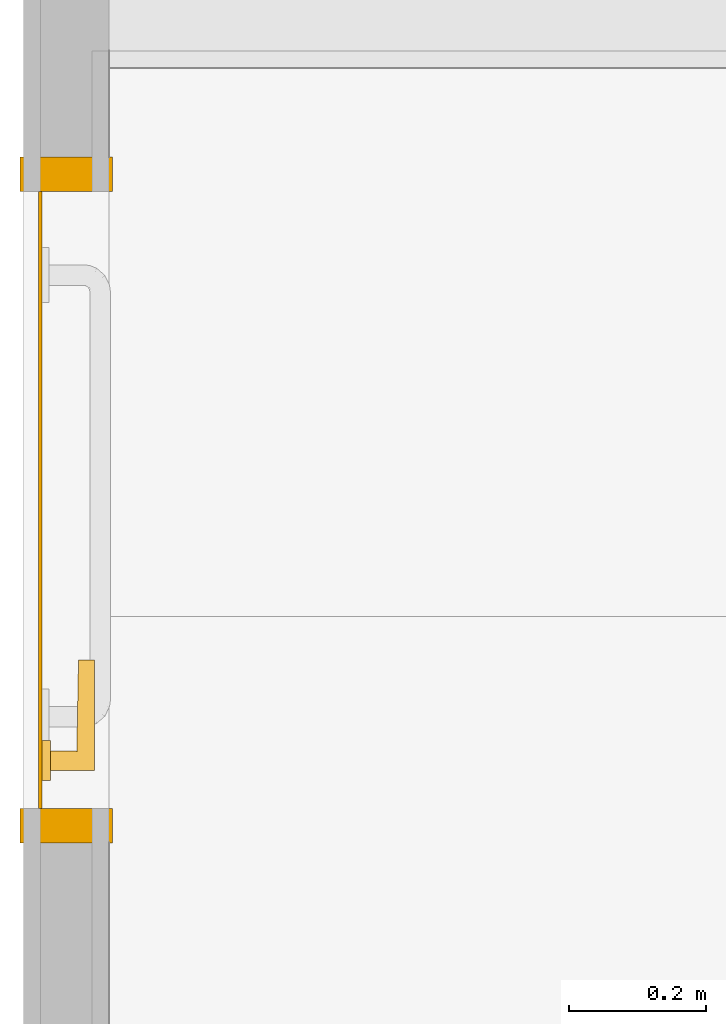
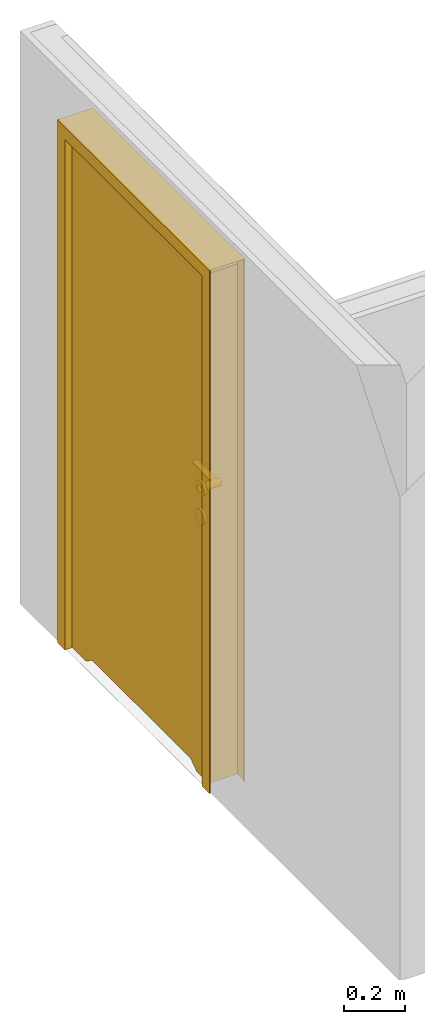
# One storey, part 3 of 4: 3 doors.
"""IFC2X3 building model written with IfcOpenShell, lengths in millimetres."""

from ifc_helpers import new_model, si_unit, frame, origin_with_axes, place, context, subcontext, project, spatial, faceted_brep, material, element, save


model = new_model("IFC2X3")

# Units and contexts
model_context = context("Model", 3, world=origin_with_axes())
body_context = subcontext(model_context, "Body", "Model", "MODEL_VIEW")
ifc_project = project(units=[si_unit("LENGTHUNIT", "METRE", prefix="MILLI"), si_unit("AREAUNIT", "SQUARE_METRE"), si_unit("VOLUMEUNIT", "CUBIC_METRE")], contexts=[model_context])

# Site, building, storey
site_placement = place(None, origin_with_axes())
site = spatial("IfcSite", under=ifc_project, at=site_placement, Name="Default Site", CompositionType="ELEMENT")
building_placement = place(site_placement, frame((2276.0499999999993, -7.219114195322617e-13, 0.0), z_axis=(0.0, 0.0, 1.0), x_axis=(2.9143354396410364e-16, 1.0, 0.0)))
building = spatial("IfcBuilding", under=site, at=building_placement, Name="Default Building", CompositionType="ELEMENT")
storey_placement = place(building_placement, origin_with_axes())
storey = spatial("IfcBuildingStorey", under=building, at=storey_placement, Name="Default Building Storey", CompositionType="ELEMENT", Elevation=0.0)

# Doors
ifc_material_1 = material(Name="Metal_06_1K")
door_1_placement = place(storey_placement, frame((1245.07, 2146.0499999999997, 0.0), z_axis=(0.0, 0.0, 1.0), x_axis=(1.0, 0.0, 0.0)))
element("IfcDoor", 1, at=door_1_placement, inside=storey, material=ifc_material_1, Name="Ościeżnica", context=body_context, shape_type="Brep", body=[
    faceted_brep([(950.0000000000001, 135.00000000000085, 1.0000000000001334), (950.0000000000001, 135.00000000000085, 2049.9999999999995), (49.999999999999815, 135.0000000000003, 2050.0), (49.999999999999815, 135.0000000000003, 1.0000000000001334), (49.999999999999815, 135.0000000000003, 0.0), (-1.8047785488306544e-13, 135.00000000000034, 0.0), (-1.8047785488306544e-13, 135.00000000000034, 2100.0), (49.999999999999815, 135.0000000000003, 2100.0), (950.0000000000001, 135.00000000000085, 2099.999999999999), (1000.0, 135.00000000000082, 2099.999999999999), (1000.0, 135.00000000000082, 500.0), (1000.0, 135.00000000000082, 0.0), (950.0000000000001, 135.00000000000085, 0.0), (49.999999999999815, 130.0, 2100.0), (50.000000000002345, 4.999999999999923, 2100.0), (950.0000000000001, 5.0000000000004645, 2099.999999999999), (950.0000000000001, 130.00000000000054, 2099.999999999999), (1000.0, 130.00000000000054, 2099.999999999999), (1000.0, 130.00000000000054, 500.0), (950.0000000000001, 5.188738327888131e-13, 2049.9999999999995), (950.0000000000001, 130.00000000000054, 1.0000000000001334), (950.0000000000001, 5.0000000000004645, 1.0000000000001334), (950.0000000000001, 5.188738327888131e-13, 1.0000000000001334), (1000.0, 5.000000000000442, 500.0), (1000.0, 5.000000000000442, 2099.999999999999), (1000.0, 4.963141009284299e-13, 2099.999999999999), (1000.0, 4.963141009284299e-13, 500.0), (2.3462121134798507e-12, 4.999999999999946, 2100.0), (2.3462121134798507e-12, 0.0, 2100.0), (1000.0, 105.00000000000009, 500.0), (1000.0, 29.999999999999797, 500.0), (1000.0, 29.999999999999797, 2099.999999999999), (1000.0, 105.00000000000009, 2099.999999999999), (50.000000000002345, -2.255973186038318e-14, 2050.0), (50.000000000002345, -2.255973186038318e-14, 1.0000000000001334), (50.000000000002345, 4.999999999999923, 1.0000000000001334), (49.999999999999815, 130.0, 1.0000000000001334), (-1.8047785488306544e-13, 130.00000000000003, 2.1476706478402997e-18), (-1.8047785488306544e-13, 130.00000000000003, 2100.0), (2.3462121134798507e-12, 104.99999999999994, 2100.0), (2.3462121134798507e-12, 30.000000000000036, 2100.0), (2.165734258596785e-12, 4.999999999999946, 0.4863954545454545), (2.3462121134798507e-12, 4.999999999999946, 2.1476706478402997e-18), (2.3462121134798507e-12, 0.0, 4.295341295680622e-18), (50.000000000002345, -2.255973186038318e-14, 4.295341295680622e-18), (950.0000000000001, 5.188738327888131e-13, 4.295341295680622e-18), (1000.0, 4.963141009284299e-13, 4.295341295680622e-18)], [[[0, 1, 2, 3, 4, 5, 6, 7, 8, 9, 10, 11, 12]], [[13, 14, 15, 16]], [[13, 16, 8, 7]], [[16, 17, 9, 8]], [[17, 18, 10, 9]], [[19, 1, 0, 20, 21, 22]], [[23, 24, 25, 26]], [[24, 15, 14, 27, 28, 25]], [[29, 30, 31, 32]], [[2, 33, 34, 35, 36, 3]], [[33, 2, 1, 19]], [[37, 38, 6, 5]], [[18, 29, 32, 17]], [[17, 16, 15, 24, 31, 32]], [[30, 23, 24, 31]], [[39, 38, 13, 14, 27, 40]], [[41, 42, 43, 28, 27]], [[26, 25, 28, 43, 44, 34, 33, 19, 22, 45, 46]], [[38, 13, 7, 6]]]),
])
ifc_material_2 = material(Name="M05_Graphite_Haze")
door_2_placement = place(storey_placement, frame((1335.920419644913, 2172.1527788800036, 998.5633166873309), z_axis=(0.0, 0.0, 1.0), x_axis=(1.0, 0.0, 0.0)))
element("IfcDoor", 2, at=door_2_placement, inside=storey, material=ifc_material_2, Name="Klamka", context=body_context, shape_type="Brep", body=[
    faceted_brep([(34.191522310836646, 76.89722111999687, 40.25621503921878), (33.31808503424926, 76.89722111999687, 41.55186664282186), (33.31808503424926, 64.49444352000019, 41.55186664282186), (34.191522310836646, 64.49444352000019, 40.25621503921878), (25.905925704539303, 76.89722111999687, 40.7140062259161), (26.835643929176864, 76.89722111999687, 41.494427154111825), (26.835643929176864, 64.49444352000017, 41.494427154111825), (25.905925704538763, 64.49444352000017, 40.7140062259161), (33.487499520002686, 76.89722111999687, 21.10611722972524), (33.4403573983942, 76.89722111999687, 19.740118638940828), (33.440357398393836, 64.49444352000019, 19.740118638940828), (33.487499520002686, 64.49444352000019, 21.10611722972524), (30.348558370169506, 76.89722111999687, 16.304786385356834), (29.146527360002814, 76.89722111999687, 16.135806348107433), (29.146527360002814, 64.49444352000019, 16.135806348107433), (30.348558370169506, 64.49444352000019, 16.304786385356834), (30.693876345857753, 76.89722111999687, 15.100857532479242), (32.12127851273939, 76.89722111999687, 15.736568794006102), (32.12127851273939, 64.49444352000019, 15.736568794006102), (30.693876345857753, 64.49444352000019, 15.100857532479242), (43.71979104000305, 76.89722111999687, 3.904894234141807), (49.75623450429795, 76.89722111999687, 8.536820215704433), (49.75623450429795, 64.49444352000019, 8.536820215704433), (43.71979104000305, 64.49444352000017, 3.904894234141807), (36.69020373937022, 64.49444352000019, 171.40546480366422), (43.71979104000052, 64.49444352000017, 168.49371440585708), (43.71979104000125, 76.89722111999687, 168.49371440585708), (36.69020373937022, 76.89722111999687, 171.40546480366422), (14.573263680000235, 64.49444352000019, 168.49371440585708), (21.60285098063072, 64.49444352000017, 171.40546480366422), (21.60285098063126, 76.89722111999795, 171.40546480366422), (14.573263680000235, 76.89722111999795, 168.49371440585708), (25.227411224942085, 76.89722111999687, 39.70750192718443), (25.227411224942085, 64.49444352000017, 39.70750192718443), (29.146527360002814, 76.89722111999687, 0.0), (36.69020373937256, 76.89722111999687, 0.9931438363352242), (36.69020373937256, 64.49444352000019, 0.9931438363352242), (29.146527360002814, 64.49444352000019, 0.0), (24.852697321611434, 76.89722111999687, 19.740118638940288), (24.805555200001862, 76.89722111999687, 21.10611722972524), (24.80555520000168, 64.49444352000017, 21.10611722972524), (24.852697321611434, 64.49444352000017, 19.740118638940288), (54.388160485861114, 76.89722111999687, 14.573263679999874), (54.38816048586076, 64.49444352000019, 14.573263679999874), (57.2999108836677, 76.89722111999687, 36.690203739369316), (54.388160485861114, 76.89722111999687, 43.71979103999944), (54.38816048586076, 64.49444352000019, 43.71979103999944), (57.2999108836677, 64.49444352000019, 36.690203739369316), (29.146527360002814, 76.89722111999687, 43.40972159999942), (27.59917837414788, 76.89722111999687, 43.19219718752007), (27.59917837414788, 64.49444352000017, 43.19219718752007), (29.146527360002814, 64.49444352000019, 43.40972159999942), (58.29305472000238, 76.89722111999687, 29.14652735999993), (58.29305472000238, 64.49444352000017, 29.14652735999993), (0.9931438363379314, 76.89722111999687, 21.602850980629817), (3.904894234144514, 76.89722111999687, 14.573263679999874), (3.904894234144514, 64.49444352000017, 14.573263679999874), (0.9931438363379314, 64.49444352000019, 21.602850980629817), (3.9048942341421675, 64.49444352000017, 157.82534495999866), (8.536820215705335, 64.49444352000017, 163.86178842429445), (8.536820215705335, 76.89722111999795, 163.86178842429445), (3.9048942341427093, 76.89722111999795, 157.82534495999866), (26.835643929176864, 76.89722111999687, 16.798627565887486), (25.905925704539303, 76.89722111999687, 17.57904849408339), (25.905925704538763, 64.49444352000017, 17.57904849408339), (26.835643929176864, 64.49444352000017, 16.798627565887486), (33.4403573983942, 76.89722111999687, 38.55293608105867), (33.487499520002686, 76.89722111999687, 37.186937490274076), (33.487499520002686, 64.49444352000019, 37.186937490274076), (33.440357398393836, 64.49444352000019, 38.55293608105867), (49.756234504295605, 64.49444352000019, 163.86178842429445), (49.756234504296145, 76.89722111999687, 163.86178842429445), (31.457410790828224, 76.89722111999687, 41.494427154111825), (32.38712901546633, 76.89722111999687, 40.7140062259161), (32.38712901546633, 64.49444352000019, 40.7140062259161), (31.457410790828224, 64.49444352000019, 41.494427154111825), (30.348558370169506, 76.89722111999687, 41.98826833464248), (30.348558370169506, 64.49444352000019, 41.98826833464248), (3.9048942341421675, 64.49444352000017, 128.6788175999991), (0.9931438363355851, 64.49444352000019, 135.70840490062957), (0.9931438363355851, 76.89722111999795, 135.70840490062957), (3.9048942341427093, 76.89722111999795, 128.6788175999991), (0.0, 64.49444352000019, 143.25208127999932), (0.0, 76.89722111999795, 143.25208127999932), (29.14652736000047, 64.49444352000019, 172.39860863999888), (29.14652736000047, 76.89722111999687, 172.39860863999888), (14.573263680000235, 64.49444352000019, 118.01044815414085), (8.536820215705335, 64.49444352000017, 122.64237413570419), (8.536820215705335, 76.89722111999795, 122.64237413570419), (14.573263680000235, 76.89722111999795, 118.01044815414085), (24.852697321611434, 76.89722111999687, 38.552936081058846), (24.852697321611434, 64.49444352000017, 38.552936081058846), (0.9931438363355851, 64.49444352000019, 150.7957576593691), (0.9931438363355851, 76.89722111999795, 150.7957576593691), (33.06564349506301, 76.89722111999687, 18.5855527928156), (33.06564349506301, 64.49444352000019, 18.5855527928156), (57.299910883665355, 64.49444352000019, 150.7957576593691), (58.2930547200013, 64.49444352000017, 143.25208127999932), (58.2930547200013, 76.89722111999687, 143.25208127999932), (57.299910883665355, 76.89722111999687, 150.7957576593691), (25.227411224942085, 76.89722111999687, 18.58555279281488), (25.227411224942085, 64.49444352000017, 18.58555279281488), (24.805555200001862, 76.89722111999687, 37.186937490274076), (24.80555520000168, 64.49444352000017, 37.186937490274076), (33.06564349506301, 76.89722111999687, 39.70750192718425), (33.06564349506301, 64.49444352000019, 39.70750192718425), (27.944496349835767, 76.89722111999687, 41.98826833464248), (29.146527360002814, 76.89722111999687, 42.15724837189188), (29.146527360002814, 64.49444352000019, 42.15724837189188), (27.944496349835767, 64.49444352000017, 41.98826833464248), (57.2999108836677, 76.89722111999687, 21.602850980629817), (57.2999108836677, 64.49444352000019, 21.602850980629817), (8.536820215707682, 76.89722111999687, 8.536820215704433), (14.573263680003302, 76.89722111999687, 3.904894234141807), (14.573263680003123, 64.49444352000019, 3.904894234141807), (8.536820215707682, 64.49444352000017, 8.536820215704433), (32.38712901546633, 76.89722111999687, 17.57904849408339), (32.38712901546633, 64.49444352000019, 17.57904849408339), (27.944496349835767, 76.89722111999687, 16.304786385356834), (27.944496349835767, 64.49444352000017, 16.304786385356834), (24.101532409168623, 76.89722111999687, 40.25621503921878), (23.61917116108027, 76.89722111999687, 38.76996695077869), (23.61917116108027, 64.49444352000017, 38.76996695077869), (24.101532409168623, 64.49444352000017, 40.25621503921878), (23.61917116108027, 76.89722111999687, 19.52308776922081), (24.101532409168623, 76.89722111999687, 18.036839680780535), (24.101532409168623, 64.49444352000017, 18.036839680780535), (23.61917116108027, 64.49444352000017, 19.52308776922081), (30.693876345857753, 64.49444352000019, 43.19219718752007), (26.171776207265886, 64.49444352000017, 42.55648592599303), (24.974969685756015, 64.49444352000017, 41.55186664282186), (23.565277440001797, 64.49444352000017, 37.20833279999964), (23.565277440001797, 64.49444352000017, 21.08472191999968), (24.974969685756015, 64.49444352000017, 16.741188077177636), (26.171776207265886, 64.49444352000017, 15.736568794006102), (27.59917837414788, 64.49444352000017, 15.100857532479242), (29.146527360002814, 64.49444352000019, 14.88333311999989), (33.31808503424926, 64.49444352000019, 16.741188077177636), (34.191522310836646, 64.49444352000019, 18.036839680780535), (34.67388355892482, 64.49444352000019, 19.523087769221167), (34.72777728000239, 64.49444352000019, 21.08472191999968), (34.72777728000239, 64.49444352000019, 37.20833279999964), (34.67388355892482, 64.49444352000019, 38.769966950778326), (32.12127851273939, 64.49444352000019, 42.55648592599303), (31.457410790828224, 64.49444352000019, 16.798627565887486), (32.12127851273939, 76.89722111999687, 42.55648592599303), (30.693876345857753, 76.89722111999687, 43.19219718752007), (1.9852564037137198e-12, 76.89722111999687, 29.14652735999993), (1.9852564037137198e-12, 64.49444352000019, 29.14652735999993), (54.38816048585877, 64.49444352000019, 157.82534495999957), (54.38816048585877, 76.89722111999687, 157.82534495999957), (8.536820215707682, 76.89722111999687, 49.7562345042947), (3.904894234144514, 76.89722111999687, 43.71979103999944), (3.904894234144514, 64.49444352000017, 43.71979103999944), (8.536820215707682, 64.49444352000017, 49.7562345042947), (31.457410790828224, 76.89722111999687, 16.798627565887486), (36.69020373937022, 64.49444352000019, 115.09869775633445), (29.14652736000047, 64.49444352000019, 114.10555391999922), (29.14652736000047, 76.89722111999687, 114.10555391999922), (36.69020373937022, 76.89722111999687, 115.09869775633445), (26.171776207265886, 76.89722111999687, 15.736568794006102), (27.59917837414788, 76.89722111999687, 15.100857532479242), (26.171776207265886, 76.89722111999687, 42.55648592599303), (32.838113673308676, 64.49444352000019, 129.47489359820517), (36.27812448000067, 64.49444352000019, 130.89979272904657), (36.27812448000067, 76.89722111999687, 130.89979272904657), (32.8381136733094, 76.89722111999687, 129.47489359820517), (0.9931438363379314, 76.89722111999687, 36.690203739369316), (0.9931438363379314, 64.49444352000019, 36.690203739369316), (39.23212872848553, 64.49444352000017, 133.16647991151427), (39.23212872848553, 76.89722111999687, 133.16647991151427), (43.409721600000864, 64.49444352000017, 143.25208127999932), (42.92371504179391, 64.49444352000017, 146.94366759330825), (42.92371504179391, 76.89722111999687, 146.94366759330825), (43.409721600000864, 76.89722111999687, 143.25208127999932), (14.88333311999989, 64.49444352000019, 143.25208127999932), (15.369339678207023, 64.49444352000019, 139.56049496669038), (15.369339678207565, 76.89722111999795, 139.56049496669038), (14.883333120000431, 76.89722111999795, 143.25208127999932), (29.146527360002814, 76.89722111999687, 58.29305471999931), (21.602850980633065, 76.89722111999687, 57.29991088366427), (21.602850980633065, 64.49444352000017, 57.29991088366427), (29.146527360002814, 64.49444352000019, 58.29305471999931), (29.14652736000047, 64.49444352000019, 157.5152755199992), (29.14652736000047, 64.49444352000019, 128.98888703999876), (41.49881591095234, 64.49444352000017, 136.12048415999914), (42.92371504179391, 64.49444352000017, 139.56049496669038), (41.49881591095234, 64.49444352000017, 150.38367839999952), (39.23212872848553, 64.49444352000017, 153.3376826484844), (36.27812448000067, 64.49444352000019, 155.60436983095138), (32.838113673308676, 64.49444352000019, 157.02926896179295), (19.06092599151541, 64.49444352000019, 133.16647991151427), (22.014930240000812, 64.49444352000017, 130.89979272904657), (22.014930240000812, 76.89722111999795, 130.89979272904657), (19.060925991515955, 76.89722111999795, 133.16647991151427), (23.565277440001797, 76.89722111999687, 37.20833279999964), (24.974969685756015, 76.89722111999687, 41.55186664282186), (23.565277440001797, 76.89722111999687, 21.08472191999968), (24.974969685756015, 76.89722111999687, 16.741188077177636), (29.146527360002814, 76.89722111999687, 14.88333311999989), (33.31808503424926, 76.89722111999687, 16.741188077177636), (34.191522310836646, 76.89722111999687, 18.036839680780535), (34.673883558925, 76.89722111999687, 19.523087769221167), (34.72777728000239, 76.89722111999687, 21.08472191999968), (34.72777728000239, 76.89722111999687, 37.20833279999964), (34.673883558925, 76.89722111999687, 38.769966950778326), (42.92371504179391, 76.89722111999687, 139.56049496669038), (41.49881591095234, 76.89722111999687, 136.12048415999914), (36.69020373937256, 64.49444352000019, 57.29991088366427), (14.57326368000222, 64.49444352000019, 54.388160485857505), (21.602850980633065, 64.49444352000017, 0.9931438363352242), (49.75623450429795, 64.49444352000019, 49.7562345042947), (43.71979104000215, 64.49444352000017, 54.388160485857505), (21.60285098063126, 76.89722111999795, 115.09869775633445), (57.299910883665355, 76.89722111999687, 135.70840490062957), (54.38816048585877, 76.89722111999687, 128.67881759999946), (49.756234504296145, 76.89722111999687, 122.64237413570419), (43.71979104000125, 76.89722111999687, 118.01044815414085), (25.454941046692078, 76.89722111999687, 129.47489359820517), (29.14652736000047, 76.89722111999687, 128.98888703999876), (41.49881591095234, 76.89722111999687, 150.38367839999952), (39.23212872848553, 76.89722111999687, 153.3376826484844), (36.27812448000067, 76.89722111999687, 155.60436983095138), (32.8381136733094, 76.89722111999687, 157.02926896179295), (29.14652736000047, 76.89722111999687, 157.5152755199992), (25.454941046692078, 76.89722111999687, 157.02926896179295), (22.014930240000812, 76.89722111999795, 155.60436983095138), (19.060925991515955, 76.89722111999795, 153.3376826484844), (16.79423880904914, 76.89722111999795, 150.38367839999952), (15.369339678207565, 76.89722111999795, 146.94366759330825), (16.79423880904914, 76.89722111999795, 136.12048415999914), (21.602850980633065, 76.89722111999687, 0.9931438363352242), (49.75623450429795, 76.89722111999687, 49.7562345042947), (43.71979104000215, 76.89722111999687, 54.388160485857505), (43.40972160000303, 1.4438228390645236e-11, 145.1124979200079), (43.40972160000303, 1.4438228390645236e-11, 143.25208128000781), (43.40972160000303, 1.4438228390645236e-11, 141.39166464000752), (52.09166592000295, 1.4415668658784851e-11, 141.39166464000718), (175.4993030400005, 0.0, 141.39166463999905), (175.4993030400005, 0.0, 145.11249791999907), (52.09166592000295, 1.4415668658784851e-11, 145.1124979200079), (39.23212872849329, 1.4438228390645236e-11, 133.16647991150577), (41.4988159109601, 1.4438228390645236e-11, 136.12048415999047), (42.923715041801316, 1.4438228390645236e-11, 139.56049496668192), (50.845634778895, 1.4415668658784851e-11, 141.0418358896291), (49.6201753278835, 1.4415668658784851e-11, 140.62563534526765), (48.41882017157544, 1.4415668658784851e-11, 140.1442627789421), (47.24503242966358, 1.4415668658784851e-11, 139.59910583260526), (46.10219575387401, 1.4415668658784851e-11, 138.9917360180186), (44.9936045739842, 1.4415668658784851e-11, 138.32390418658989), (43.922454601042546, 1.4438228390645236e-11, 137.5975354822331), (42.89183361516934, 1.4438228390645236e-11, 136.81472379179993), (41.904712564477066, 1.4438228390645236e-11, 135.9777257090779), (40.96393700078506, 1.4438228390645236e-11, 135.0889540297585), (40.072218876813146, 1.4438228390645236e-11, 134.15097079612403), (43.40972159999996, 26.045832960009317, 145.112497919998), (43.40972160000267, 25.751290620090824, 145.1124979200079), (52.09166592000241, 25.751290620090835, 145.1124979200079), (175.4993030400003, 23.565277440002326, 145.11249791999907), (25.454941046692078, 64.49444352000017, 129.47489359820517), (25.454941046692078, 64.49444352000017, 157.02926896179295), (22.014930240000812, 64.49444352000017, 155.60436983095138), (19.06092599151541, 64.49444352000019, 153.3376826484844), (16.7942388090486, 64.49444352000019, 150.38367839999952), (15.369339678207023, 64.49444352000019, 146.94366759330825), (16.7942388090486, 64.49444352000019, 136.12048415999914), (29.14652736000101, 7.219114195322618e-12, 157.5152755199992), (29.14652736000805, 1.4438228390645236e-11, 128.98888703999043), (36.69020373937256, 76.89722111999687, 57.29991088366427), (14.573263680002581, 76.89722111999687, 54.388160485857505), (21.60285098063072, 64.49444352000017, 115.09869775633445), (175.4993030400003, 23.565277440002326, 141.39166463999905), (57.299910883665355, 64.49444352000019, 135.70840490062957), (54.38816048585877, 64.49444352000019, 128.67881759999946), (49.756234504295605, 64.49444352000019, 122.64237413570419), (43.71979104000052, 64.49444352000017, 118.01044815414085), (39.232128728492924, 25.787088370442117, 133.16647991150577), (40.07221887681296, 25.787088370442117, 134.15097079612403), (41.498815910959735, 25.787088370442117, 136.12048415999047), (47.2450324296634, 25.787088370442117, 139.59910583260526), (48.418820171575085, 25.787088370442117, 140.1442627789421), (25.45494104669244, 7.219114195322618e-12, 129.47489359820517), (42.92371504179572, 25.751290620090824, 146.9436675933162), (43.40972160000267, 25.751290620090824, 143.25208128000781), (43.40972160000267, 25.787088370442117, 143.25208128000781), (43.40972159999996, 26.045832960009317, 143.25208127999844), (22.014930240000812, 7.219114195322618e-12, 155.60436983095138), (25.45494104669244, 7.219114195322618e-12, 157.02926896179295), (43.40972159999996, 26.045832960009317, 141.39166463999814), (43.40972160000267, 25.787088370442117, 141.39166464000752), (52.09166592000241, 25.787088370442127, 141.39166464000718), (16.79423880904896, 7.196554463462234e-12, 136.12048415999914), (15.369339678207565, 7.196554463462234e-12, 139.56049496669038), (36.278124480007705, 1.4438228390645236e-11, 130.89979272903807), (32.83811367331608, 1.4438228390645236e-11, 129.47489359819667), (46.10219575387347, 25.787088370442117, 138.9917360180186), (42.92371504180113, 25.787088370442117, 139.56049496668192), (39.23212872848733, 25.751290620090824, 153.33768264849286), (41.49881591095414, 25.751290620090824, 150.383678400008), (50.84563477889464, 25.787088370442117, 141.0418358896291), (42.92371504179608, 1.4438228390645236e-11, 146.9436675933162), (41.49881591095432, 1.4438228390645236e-11, 150.383678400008), (32.83811367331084, 1.4438228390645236e-11, 157.02926896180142), (36.27812448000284, 1.4438228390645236e-11, 155.60436983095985), (39.23212872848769, 1.4438228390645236e-11, 153.33768264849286), (40.9639370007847, 25.787088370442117, 135.0889540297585), (41.90471256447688, 25.787088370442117, 135.9777257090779), (14.883333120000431, 7.196554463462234e-12, 143.25208127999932), (15.369339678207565, 7.196554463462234e-12, 146.94366759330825), (42.891833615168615, 25.787088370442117, 136.81472379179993), (16.79423880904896, 7.196554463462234e-12, 150.38367839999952), (19.060925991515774, 7.219114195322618e-12, 153.3376826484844), (19.060925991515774, 7.219114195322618e-12, 133.16647991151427), (22.014930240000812, 7.219114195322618e-12, 130.89979272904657), (49.62017532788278, 25.787088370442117, 140.62563534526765), (44.99360457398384, 25.787088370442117, 138.32390418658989), (43.92245460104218, 25.787088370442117, 137.5975354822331), (40.07221887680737, 25.751290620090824, 152.35319176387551), (40.96393700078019, 25.751290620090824, 151.41520853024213), (41.904712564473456, 25.751290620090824, 150.52643685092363), (42.89183361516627, 25.751290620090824, 149.68943876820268), (43.92245460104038, 25.751290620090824, 148.90662707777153), (44.99360457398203, 25.751290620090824, 148.18025837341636), (46.102195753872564, 25.751290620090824, 147.5124265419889), (47.245032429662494, 25.751290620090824, 146.90505672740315), (48.41882017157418, 25.751290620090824, 146.3598997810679), (49.62017532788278, 25.751290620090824, 145.87852721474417), (50.84563477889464, 25.751290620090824, 145.4623266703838), (47.24503242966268, 1.4415668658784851e-11, 146.90505672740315), (48.41882017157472, 1.4415668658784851e-11, 146.3598997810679), (40.07221887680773, 1.4438228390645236e-11, 152.35319176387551), (40.96393700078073, 1.4438228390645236e-11, 151.41520853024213), (41.904712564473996, 1.4438228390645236e-11, 150.52643685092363), (43.92245460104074, 1.4438228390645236e-11, 148.90662707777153), (44.993604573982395, 1.4415668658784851e-11, 148.18025837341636), (42.89183361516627, 1.4438228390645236e-11, 149.68943876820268), (49.6201753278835, 1.4415668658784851e-11, 145.87852721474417), (50.845634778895, 1.4415668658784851e-11, 145.4623266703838), (46.102195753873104, 1.4415668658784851e-11, 147.5124265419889)], [[[0, 1, 2, 3]], [[4, 5, 6, 7]], [[8, 9, 10, 11]], [[12, 13, 14, 15]], [[16, 17, 18, 19]], [[20, 21, 22, 23]], [[24, 25, 26, 27]], [[28, 29, 30, 31]], [[32, 4, 7, 33]], [[34, 35, 36, 37]], [[38, 39, 40, 41]], [[21, 42, 43, 22]], [[44, 45, 46, 47]], [[48, 49, 50, 51]], [[52, 44, 47, 53]], [[54, 55, 56, 57]], [[58, 59, 60, 61]], [[62, 63, 64, 65]], [[66, 67, 68, 69]], [[25, 70, 71, 26]], [[72, 73, 74, 75]], [[76, 72, 75, 77]], [[78, 79, 80, 81]], [[79, 82, 83, 80]], [[84, 24, 27, 85]], [[59, 28, 31, 60]], [[86, 87, 88, 89]], [[90, 32, 33, 91]], [[82, 92, 93, 83]], [[9, 94, 95, 10]], [[96, 97, 98, 99]], [[63, 100, 101, 64]], [[102, 90, 91, 103]], [[100, 38, 41, 101]], [[73, 104, 105, 74]], [[106, 107, 108, 109]], [[87, 78, 81, 88]], [[5, 106, 109, 6]], [[42, 110, 111, 43]], [[112, 113, 114, 115]], [[94, 116, 117, 95]], [[39, 102, 103, 40]], [[118, 62, 65, 119]], [[92, 58, 61, 93]], [[29, 84, 85, 30]], [[120, 121, 122, 123]], [[124, 125, 126, 127]], [[110, 52, 53, 111]], [[128, 51, 50, 129, 130, 123, 122, 131, 132, 127, 126, 133, 134, 135, 136, 19, 18, 137, 138, 139, 140, 141, 142, 3, 2, 143], [95, 117, 144, 15, 14, 119, 65, 64, 101, 41, 40, 103, 91, 33, 7, 6, 109, 108, 77, 75, 74, 105, 69, 68, 11, 10]], [[145, 146, 128, 143]], [[147, 54, 57, 148]], [[149, 96, 99, 150]], [[67, 8, 11, 68]], [[104, 66, 69, 105]], [[151, 152, 153, 154]], [[70, 149, 150, 71]], [[107, 76, 77, 108]], [[13, 118, 119, 14]], [[116, 155, 144, 117]], [[156, 157, 158, 159]], [[160, 161, 135, 134]], [[49, 162, 129, 50]], [[163, 164, 165, 166]], [[155, 12, 15, 144]], [[1, 145, 143, 2]], [[167, 147, 148, 168]], [[164, 169, 170, 165]], [[171, 172, 173, 174]], [[175, 176, 177, 178]], [[179, 180, 181, 182]], [[183, 184, 163, 164, 169, 185, 186, 171, 172, 187, 188, 189, 190]], [[191, 192, 193, 194]], [[121, 195, 131, 122]], [[152, 167, 168, 153]], [[162, 196, 130, 129]], [[146, 48, 49, 162, 196, 120, 121, 195, 197, 124, 125, 198, 160, 161, 199, 16, 17, 200, 201, 202, 203, 204, 205, 0, 1, 145], [94, 116, 155, 12, 13, 118, 62, 63, 100, 38, 39, 102, 90, 32, 4, 5, 106, 107, 76, 72, 73, 104, 66, 67, 8, 9]], [[185, 186, 206, 207]], [[198, 160, 134, 133]], [[17, 200, 137, 18]], [[208, 182, 181, 209, 154, 153, 168, 148, 57, 56, 115, 114, 210, 37, 36, 23, 22, 43, 111, 53, 47, 46, 211, 212], [50, 51, 128, 143, 2, 3, 142, 141, 140, 139, 138, 137, 18, 19, 136, 135, 134, 133, 126, 127, 132, 131, 122, 123, 130, 129]], [[159, 158, 213, 89, 88, 81, 80, 83, 93, 61, 60, 31, 30, 85, 27, 26, 71, 150, 99, 98, 214, 215, 216, 217], [218, 219, 166, 165, 170, 207, 206, 174, 173, 220, 221, 222, 223, 224, 225, 226, 227, 228, 229, 178, 177, 230, 194, 193]], [[113, 231, 210, 114]], [[45, 232, 211, 46]], [[232, 233, 212, 211]], [[146, 48, 51, 128]], [[201, 202, 139, 138]], [[200, 201, 138, 137]], [[125, 198, 133, 126]], [[186, 171, 174, 206]], [[234, 235, 236, 237, 238, 239, 240]], [[241, 242, 243, 235, 236, 237, 244, 245, 246, 247, 248, 249, 250, 251, 252, 253, 254]], [[169, 185, 207, 170]], [[188, 189, 222, 221]], [[255, 256, 257, 240, 239, 258]], [[259, 184, 183, 260, 261, 262, 263, 264, 175, 176, 265, 191, 192]], [[266, 267, 184, 183]], [[204, 205, 142, 141]], [[203, 204, 141, 140]], [[196, 120, 123, 130]], [[233, 268, 208, 212]], [[199, 16, 19, 136]], [[268, 179, 180, 269, 151, 152, 167, 147, 54, 55, 112, 113, 231, 34, 35, 20, 21, 42, 110, 52, 44, 45, 232, 233], [49, 48, 146, 145, 1, 0, 205, 204, 203, 202, 201, 200, 17, 16, 199, 161, 160, 198, 125, 124, 197, 195, 121, 120, 196, 162]], [[231, 34, 37, 210]], [[269, 151, 154, 209]], [[268, 179, 182, 208]], [[157, 270, 213, 158]], [[55, 112, 115, 56]], [[197, 124, 127, 132]], [[35, 20, 23, 36]], [[239, 238, 271, 258]], [[156, 157, 270, 86, 87, 78, 79, 82, 92, 58, 59, 28, 29, 84, 24, 25, 70, 149, 96, 97, 272, 273, 274, 275], [259, 184, 163, 164, 169, 185, 186, 171, 172, 187, 188, 189, 190, 183, 260, 261, 262, 263, 264, 175, 176, 265, 191, 192]], [[202, 203, 140, 139]], [[270, 86, 89, 213]], [[161, 199, 136, 135]], [[180, 269, 209, 181]], [[205, 0, 3, 142]], [[195, 197, 132, 131]], [[254, 241, 276, 277]], [[242, 241, 276, 278]], [[246, 247, 279, 280]], [[262, 263, 228, 227]], [[259, 184, 267, 281]], [[171, 172, 282, 283, 284, 285]], [[260, 261, 286, 287]], [[288, 289, 290, 237, 238, 271]], [[284, 283, 256, 255, 285]], [[176, 265, 291, 292]], [[163, 164, 293, 294]], [[247, 248, 295, 279]], [[243, 242, 278, 296]], [[187, 188, 297, 298]], [[237, 244, 299, 290]], [[235, 236, 289, 284, 283]], [[300, 235, 283, 282]], [[301, 300, 282, 298]], [[236, 237, 290, 289]], [[172, 187, 220, 173]], [[258, 271, 288, 285, 255]], [[265, 191, 194, 230]], [[190, 183, 266, 302]], [[261, 262, 227, 226]], [[185, 186, 296, 278]], [[188, 189, 303, 304, 297]], [[252, 253, 305, 306]], [[264, 175, 307, 308]], [[266, 267, 294, 293, 241, 242, 243, 235, 300, 301, 304, 303, 302]], [[251, 252, 306, 309]], [[189, 190, 223, 222]], [[176, 265, 230, 177]], [[190, 183, 224, 223]], [[262, 263, 310, 311]], [[263, 264, 229, 228]], [[264, 175, 178, 229]], [[265, 191, 312, 291]], [[263, 264, 308, 310]], [[191, 192, 313, 312]], [[281, 267, 266, 287, 286, 311, 310, 308, 307, 292, 291, 312, 313]], [[260, 261, 226, 225]], [[187, 188, 221, 220]], [[184, 163, 294, 267]], [[192, 259, 281, 313]], [[253, 254, 277, 305]], [[235, 234, 256, 283]], [[244, 245, 314, 299]], [[172, 187, 298, 282]], [[276, 278, 296, 284, 289, 290, 299, 314, 280, 279, 295, 315, 316, 309, 306, 305, 277]], [[235, 243, 296, 284, 283]], [[183, 260, 287, 266]], [[261, 262, 311, 286]], [[285, 284, 289, 288]], [[189, 190, 302, 303]], [[164, 169, 276, 241, 293]], [[183, 260, 225, 224]], [[186, 171, 285, 284, 296]], [[169, 185, 278, 276]], [[175, 176, 292, 307]], [[249, 250, 316, 315]], [[192, 259, 218, 193]], [[250, 251, 309, 316]], [[97, 272, 214, 98]], [[257, 256, 283, 282, 298, 297, 317, 318, 319, 320, 321, 322, 323, 324, 325, 326, 327]], [[328, 329, 325, 324]], [[234, 240, 257, 256]], [[304, 330, 317, 297]], [[259, 184, 219, 218]], [[248, 249, 315, 295]], [[184, 163, 166, 219]], [[245, 246, 280, 314]], [[331, 332, 319, 318]], [[333, 334, 322, 321]], [[332, 335, 320, 319]], [[272, 273, 215, 214]], [[329, 336, 326, 325]], [[337, 240, 257, 327]], [[240, 234, 235, 300, 301, 304, 330, 331, 332, 335, 333, 334, 338, 328, 329, 336, 337]], [[336, 337, 327, 326]], [[335, 333, 321, 320]], [[304, 301, 298, 297]], [[273, 274, 216, 215]], [[330, 331, 318, 317]], [[274, 275, 217, 216]], [[338, 328, 324, 323]], [[275, 156, 159, 217]], [[334, 338, 323, 322]]]),
])
door_3_placement = place(storey_placement, frame((1295.0700000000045, 2230.05, 0.9999999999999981), z_axis=(0.0, 0.0, 1.0), x_axis=(1.0, 0.0, 0.0)))
element("IfcDoor", 3, at=door_3_placement, inside=storey, material=ifc_material_1, Name="Drzwi", context=body_context, shape_type="Brep", body=[
    faceted_brep([(0.0, 24.000000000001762, 1.2037731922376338e-13), (81.09597175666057, 24.000000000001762, -1.5298318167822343e-13), (81.09597175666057, 19.00000000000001, -1.5298318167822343e-13), (0.0, 19.00000000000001, 1.4540452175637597e-13), (6.316724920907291e-12, 24.000000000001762, 2049.0000000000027), (6.316724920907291e-12, 19.00000000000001, 2049.0000000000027), (900.0000000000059, 19.00000000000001, 2048.999999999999), (900.0000000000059, 24.000000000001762, 2048.999999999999), (899.9999999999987, 19.00000000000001, -3.165412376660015e-12), (899.9999999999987, 24.000000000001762, -3.0550811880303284e-12), (809.0959717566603, 24.00000000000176, -2.8310701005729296e-12), (789.4018231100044, 24.00000000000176, 13.999999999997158), (769.7076744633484, 24.00000000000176, 27.99999999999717), (120.4842690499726, 24.000000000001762, 27.9999999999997), (120.4842690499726, 19.00000000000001, 27.9999999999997), (809.0959717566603, 19.00000000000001, -2.8310701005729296e-12), (789.4018231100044, 19.00000000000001, 13.999999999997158), (769.7076744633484, 19.00000000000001, 27.99999999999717)], [[[0, 1, 2, 3]], [[4, 5, 6, 7]], [[0, 3, 5, 4]], [[8, 9, 7, 6]], [[1, 0, 4, 7, 9, 10, 11, 12, 13]], [[14, 2, 1, 13]], [[15, 16, 11, 10]], [[16, 17, 12, 11]], [[17, 14, 13, 12]], [[15, 10, 9, 8]]]),
    faceted_brep([(789.4018231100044, 19.00000000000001, 13.999999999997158), (809.0959717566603, 19.00000000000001, -2.8310701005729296e-12), (899.9999999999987, 19.00000000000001, -3.165412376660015e-12), (900.0000000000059, 19.00000000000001, 2048.999999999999), (6.316724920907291e-12, 19.00000000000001, 2049.0000000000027), (0.0, 19.00000000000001, 1.4540452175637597e-13), (81.09597175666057, 19.00000000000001, -1.5298318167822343e-13), (120.4842690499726, 19.00000000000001, 27.9999999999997), (769.7076744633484, 19.00000000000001, 27.99999999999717)], [[[0, 1, 2, 3, 4, 5, 6, 7, 8]]]),
])

save(model, "model.ifc")
